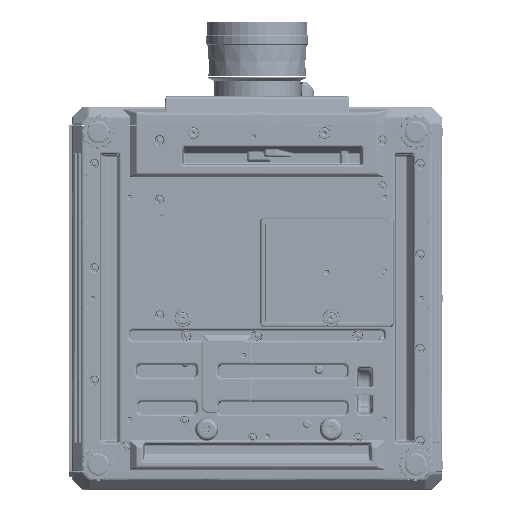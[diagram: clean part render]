
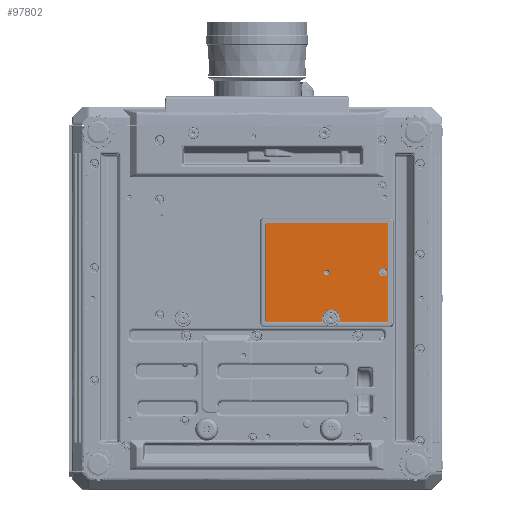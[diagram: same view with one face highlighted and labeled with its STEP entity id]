
A CAD part, front view. The second image highlights one B-rep face of the part: STEP entity #97802.
In plain terms, the highlighted planar face has unit normal (0, -1, 0).
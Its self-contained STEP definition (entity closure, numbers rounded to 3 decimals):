
#14307=ELLIPSE('',#344697,1.504,1.5);
#14308=ELLIPSE('',#344698,1.504,1.5);
#14309=ELLIPSE('',#344700,1.504,1.5);
#14310=ELLIPSE('',#344701,1.504,1.5);
#20710=B_SPLINE_CURVE_WITH_KNOTS('',3,(#481220,#481221,#481222,#481223,
#481224,#481225,#481226,#481227,#481228,#481229,#481230,#481231,#481232,
#481233,#481234,#481235,#481236,#481237,#481238),.UNSPECIFIED.,.F.,.F.,
(4,3,3,3,3,3,4),(0.,0.054,0.243,0.432,
0.621,0.811,1.),.UNSPECIFIED.);
#20711=B_SPLINE_CURVE_WITH_KNOTS('',3,(#481242,#481243,#481244,#481245,
#481246,#481247,#481248,#481249,#481250,#481251,#481252,#481253,#481254,
#481255,#481256,#481257,#481258,#481259,#481260),.UNSPECIFIED.,.F.,.F.,
(4,3,3,3,3,3,4),(0.,0.054,0.243,0.432,
0.621,0.811,1.),.UNSPECIFIED.);
#24546=FACE_BOUND('',#123745,.T.);
#24547=FACE_BOUND('',#123746,.T.);
#24548=FACE_BOUND('',#123747,.T.);
#97802=ADVANCED_FACE('',(#24546,#24547,#24548),#106653,.F.);
#106653=PLANE('',#344702);
#123745=EDGE_LOOP('',(#158250));
#123746=EDGE_LOOP('',(#158251));
#123747=EDGE_LOOP('',(#158252,#158253,#158254,#158255,#158256,#158257,#158258,
#158259,#158260,#158261,#158262,#158263));
#135696=CIRCLE('',#344694,4.);
#135697=CIRCLE('',#344696,6.125);
#135698=CIRCLE('',#344699,13.358);
#158250=ORIENTED_EDGE('',*,*,#250606,.T.);
#158251=ORIENTED_EDGE('',*,*,#250607,.T.);
#158252=ORIENTED_EDGE('',*,*,#250608,.T.);
#158253=ORIENTED_EDGE('',*,*,#250609,.T.);
#158254=ORIENTED_EDGE('',*,*,#250610,.T.);
#158255=ORIENTED_EDGE('',*,*,#250611,.T.);
#158256=ORIENTED_EDGE('',*,*,#250612,.T.);
#158257=ORIENTED_EDGE('',*,*,#250613,.T.);
#158258=ORIENTED_EDGE('',*,*,#250614,.T.);
#158259=ORIENTED_EDGE('',*,*,#250615,.T.);
#158260=ORIENTED_EDGE('',*,*,#250616,.T.);
#158261=ORIENTED_EDGE('',*,*,#250617,.T.);
#158262=ORIENTED_EDGE('',*,*,#250618,.T.);
#158263=ORIENTED_EDGE('',*,*,#250619,.T.);
#209946=VERTEX_POINT('',#481205);
#209947=VERTEX_POINT('',#481208);
#209948=VERTEX_POINT('',#481210);
#209949=VERTEX_POINT('',#481211);
#209950=VERTEX_POINT('',#481213);
#209951=VERTEX_POINT('',#481215);
#209952=VERTEX_POINT('',#481217);
#209953=VERTEX_POINT('',#481219);
#209954=VERTEX_POINT('',#481239);
#209955=VERTEX_POINT('',#481241);
#209956=VERTEX_POINT('',#481261);
#209957=VERTEX_POINT('',#481263);
#209958=VERTEX_POINT('',#481265);
#209959=VERTEX_POINT('',#481267);
#250606=EDGE_CURVE('',#209946,#209946,#135696,.T.);
#250607=EDGE_CURVE('',#209947,#209947,#135697,.T.);
#250608=EDGE_CURVE('',#209948,#209949,#290555,.T.);
#250609=EDGE_CURVE('',#209949,#209950,#14307,.T.);
#250610=EDGE_CURVE('',#209950,#209951,#290556,.T.);
#250611=EDGE_CURVE('',#209951,#209952,#14308,.T.);
#250612=EDGE_CURVE('',#209952,#209953,#290557,.T.);
#250613=EDGE_CURVE('',#209953,#209954,#20710,.T.);
#250614=EDGE_CURVE('',#209954,#209955,#135698,.T.);
#250615=EDGE_CURVE('',#209955,#209956,#20711,.T.);
#250616=EDGE_CURVE('',#209956,#209957,#290558,.T.);
#250617=EDGE_CURVE('',#209957,#209958,#14309,.T.);
#250618=EDGE_CURVE('',#209958,#209959,#290559,.T.);
#250619=EDGE_CURVE('',#209959,#209948,#14310,.T.);
#290555=LINE('',#481209,#317029);
#290556=LINE('',#481214,#317030);
#290557=LINE('',#481218,#317031);
#290558=LINE('',#481262,#317032);
#290559=LINE('',#481266,#317033);
#317029=VECTOR('',#383557,1.);
#317030=VECTOR('',#383560,1.);
#317031=VECTOR('',#383563,1.);
#317032=VECTOR('',#383566,1.);
#317033=VECTOR('',#383569,1.);
#344694=AXIS2_PLACEMENT_3D('',#481204,#383551,#383552);
#344696=AXIS2_PLACEMENT_3D('',#481207,#383555,#383556);
#344697=AXIS2_PLACEMENT_3D('',#481212,#383558,#383559);
#344698=AXIS2_PLACEMENT_3D('',#481216,#383561,#383562);
#344699=AXIS2_PLACEMENT_3D('',#481240,#383564,#383565);
#344700=AXIS2_PLACEMENT_3D('',#481264,#383567,#383568);
#344701=AXIS2_PLACEMENT_3D('',#481268,#383570,#383571);
#344702=AXIS2_PLACEMENT_3D('',#481269,#383572,#383573);
#383551=DIRECTION('',(0.,1.,0.));
#383552=DIRECTION('',(0.,0.,1.));
#383555=DIRECTION('',(0.,1.,0.));
#383556=DIRECTION('',(0.,0.,1.));
#383557=DIRECTION('',(-1.,0.,0.));
#383558=DIRECTION('',(0.,-1.,0.));
#383559=DIRECTION('',(0.707,0.,-0.707));
#383560=DIRECTION('',(0.,0.,-1.));
#383561=DIRECTION('',(0.,-1.,0.));
#383562=DIRECTION('',(-0.707,0.,-0.707));
#383563=DIRECTION('',(1.,0.,0.));
#383564=DIRECTION('',(0.,1.,0.));
#383565=DIRECTION('',(0.,0.,1.));
#383566=DIRECTION('',(1.,0.,0.));
#383567=DIRECTION('',(0.,-1.,0.));
#383568=DIRECTION('',(-0.707,0.,0.707));
#383569=DIRECTION('',(0.,0.,1.));
#383570=DIRECTION('',(0.,-1.,0.));
#383571=DIRECTION('',(-0.707,0.,-0.707));
#383572=DIRECTION('',(0.,1.,0.));
#383573=DIRECTION('',(0.,0.,1.));
#481204=CARTESIAN_POINT('',(103.8,-116.5,-1.5));
#481205=CARTESIAN_POINT('',(103.8,-116.5,2.5));
#481207=CARTESIAN_POINT('',(187.8,-116.5,-1.5));
#481208=CARTESIAN_POINT('',(187.8,-116.5,4.625));
#481209=CARTESIAN_POINT('',(110.,-116.5,71.642));
#481210=CARTESIAN_POINT('',(193.644,-116.5,71.642));
#481211=CARTESIAN_POINT('',(14.356,-116.5,71.642));
#481212=CARTESIAN_POINT('',(14.36,-116.5,70.14));
#481213=CARTESIAN_POINT('',(12.858,-116.5,70.144));
#481214=CARTESIAN_POINT('',(12.858,-116.5,-70.));
#481215=CARTESIAN_POINT('',(12.858,-116.5,-73.144));
#481216=CARTESIAN_POINT('',(14.36,-116.5,-73.14));
#481217=CARTESIAN_POINT('',(14.356,-116.5,-74.642));
#481218=CARTESIAN_POINT('',(110.,-116.5,-74.642));
#481219=CARTESIAN_POINT('',(95.481,-116.5,-74.642));
#481220=CARTESIAN_POINT('',(95.481,-116.5,-74.642));
#481221=CARTESIAN_POINT('',(95.529,-116.5,-74.642));
#481222=CARTESIAN_POINT('',(95.578,-116.5,-74.64));
#481223=CARTESIAN_POINT('',(95.627,-116.5,-74.635));
#481224=CARTESIAN_POINT('',(95.794,-116.5,-74.619));
#481225=CARTESIAN_POINT('',(95.96,-116.5,-74.574));
#481226=CARTESIAN_POINT('',(96.112,-116.5,-74.503));
#481227=CARTESIAN_POINT('',(96.264,-116.5,-74.433));
#481228=CARTESIAN_POINT('',(96.405,-116.5,-74.335));
#481229=CARTESIAN_POINT('',(96.525,-116.5,-74.219));
#481230=CARTESIAN_POINT('',(96.645,-116.5,-74.102));
#481231=CARTESIAN_POINT('',(96.747,-116.5,-73.963));
#481232=CARTESIAN_POINT('',(96.822,-116.5,-73.813));
#481233=CARTESIAN_POINT('',(96.897,-116.5,-73.662));
#481234=CARTESIAN_POINT('',(96.947,-116.5,-73.497));
#481235=CARTESIAN_POINT('',(96.967,-116.5,-73.33));
#481236=CARTESIAN_POINT('',(96.988,-116.5,-73.164));
#481237=CARTESIAN_POINT('',(96.98,-116.5,-72.991));
#481238=CARTESIAN_POINT('',(96.945,-116.5,-72.827));
#481239=CARTESIAN_POINT('',(96.945,-116.5,-72.827));
#481240=CARTESIAN_POINT('',(110.,-116.5,-70.));
#481241=CARTESIAN_POINT('',(123.055,-116.5,-72.827));
#481242=CARTESIAN_POINT('',(123.055,-116.5,-72.827));
#481243=CARTESIAN_POINT('',(123.045,-116.5,-72.875));
#481244=CARTESIAN_POINT('',(123.037,-116.5,-72.923));
#481245=CARTESIAN_POINT('',(123.031,-116.5,-72.972));
#481246=CARTESIAN_POINT('',(123.012,-116.5,-73.138));
#481247=CARTESIAN_POINT('',(123.021,-116.5,-73.31));
#481248=CARTESIAN_POINT('',(123.058,-116.5,-73.473));
#481249=CARTESIAN_POINT('',(123.094,-116.5,-73.637));
#481250=CARTESIAN_POINT('',(123.159,-116.5,-73.796));
#481251=CARTESIAN_POINT('',(123.248,-116.5,-73.938));
#481252=CARTESIAN_POINT('',(123.337,-116.5,-74.08));
#481253=CARTESIAN_POINT('',(123.451,-116.5,-74.209));
#481254=CARTESIAN_POINT('',(123.582,-116.5,-74.313));
#481255=CARTESIAN_POINT('',(123.713,-116.5,-74.418));
#481256=CARTESIAN_POINT('',(123.864,-116.5,-74.502));
#481257=CARTESIAN_POINT('',(124.023,-116.5,-74.558));
#481258=CARTESIAN_POINT('',(124.181,-116.5,-74.613));
#481259=CARTESIAN_POINT('',(124.351,-116.5,-74.642));
#481260=CARTESIAN_POINT('',(124.519,-116.5,-74.642));
#481261=CARTESIAN_POINT('',(124.519,-116.5,-74.642));
#481262=CARTESIAN_POINT('',(110.,-116.5,-74.642));
#481263=CARTESIAN_POINT('',(193.644,-116.5,-74.642));
#481264=CARTESIAN_POINT('',(193.64,-116.5,-73.14));
#481265=CARTESIAN_POINT('',(195.142,-116.5,-73.144));
#481266=CARTESIAN_POINT('',(195.142,-116.5,-70.));
#481267=CARTESIAN_POINT('',(195.142,-116.5,70.144));
#481268=CARTESIAN_POINT('',(193.64,-116.5,70.14));
#481269=CARTESIAN_POINT('',(110.,-116.5,-70.));
